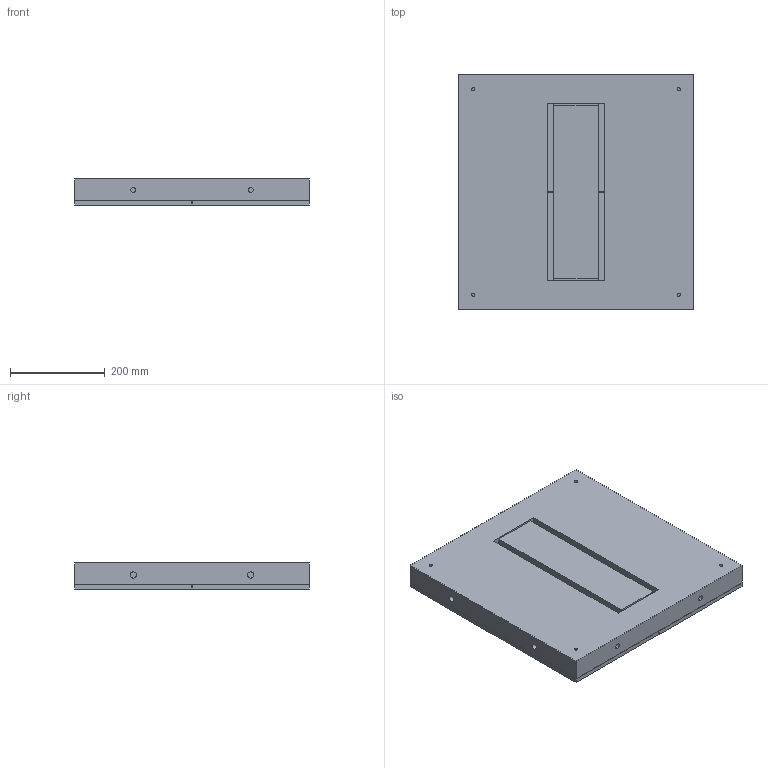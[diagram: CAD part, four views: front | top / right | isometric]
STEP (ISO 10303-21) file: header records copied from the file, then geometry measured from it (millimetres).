
FILE_DESCRIPTION (( 'STEP AP203' ), '1' );
FILE_NAME ('源輸RA.STEP', '2025-08-12T06:28:07', ( '' ), ( '' ), 'SwSTEP 2.0', 'SolidWorks 2023', '' );
FILE_SCHEMA (( 'CONFIG_CONTROL_DESIGN' ));
Length unit declared in the file: millimetre
Products named in the file (4): 电源盒; 箱体; 方块RA; 模组
Assembly tree (6 placements, depth 2):
  方块RA
    箱体
    模组  x4
    电源盒
Bounding box: 495.9 x 495.9 x 55.05 mm (x, y, z)
Volume: 13078810.2 mm3; surface area: 1193360.6 mm2
Topology: 6 solids, 6 shells, 102 faces, 246 edges, 164 vertices
Faces by surface type: plane 68, cylinder 34
Entity records: 3052 total; most frequent: DIRECTION 464, CARTESIAN_POINT 443, ORIENTED_EDGE 420, EDGE_CURVE 210, AXIS2_PLACEMENT_3D 161, LINE 142, VECTOR 142, VERTEX_POINT 140
